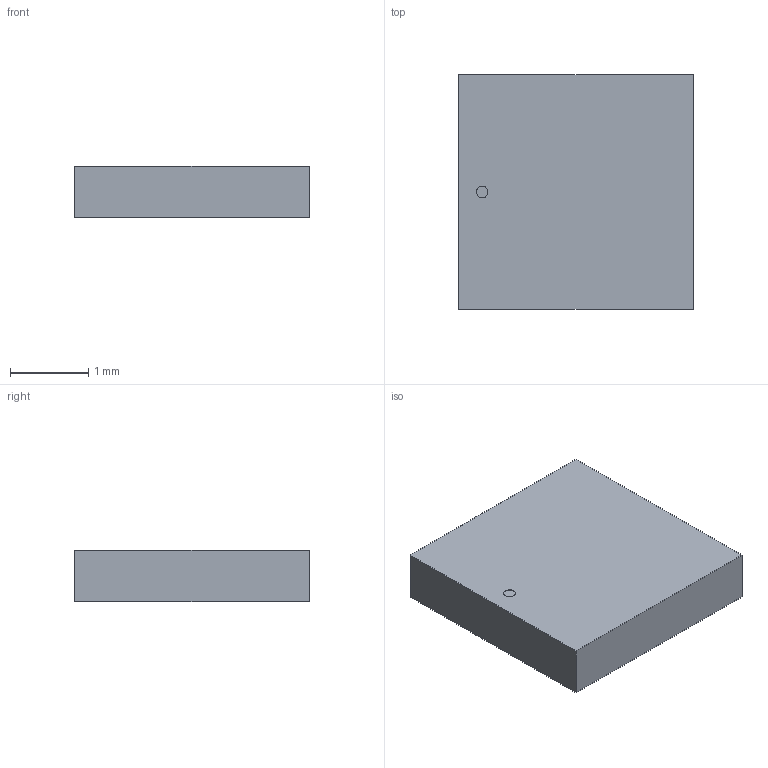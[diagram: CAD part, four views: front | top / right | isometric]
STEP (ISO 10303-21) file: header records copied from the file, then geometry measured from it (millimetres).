
FILE_DESCRIPTION(('STEP AP214'),'1');
FILE_NAME('LED_LM301Z_SAM','2025-05-14T06:47:02',(''),(''),'','','');
FILE_SCHEMA(('AUTOMOTIVE_DESIGN'));
Length unit declared in the file: millimetre
Products named in the file (1): product
Bounding box: 3 x 3 x 0.66 mm (x, y, z)
Volume: 5.9 mm3; surface area: 34.5 mm2
Topology: 4 solids, 4 shells, 21 faces, 39 edges, 26 vertices
Faces by surface type: plane 20, cylinder 1
Full cylindrical faces by diameter (mm): 0.15 x1
Entity records: 661 total; most frequent: DIRECTION 86, ORIENTED_EDGE 76, CARTESIAN_POINT 51, EDGE_CURVE 38, LINE 36, VECTOR 36, VERTEX_POINT 26, AXIS2_PLACEMENT_3D 25
